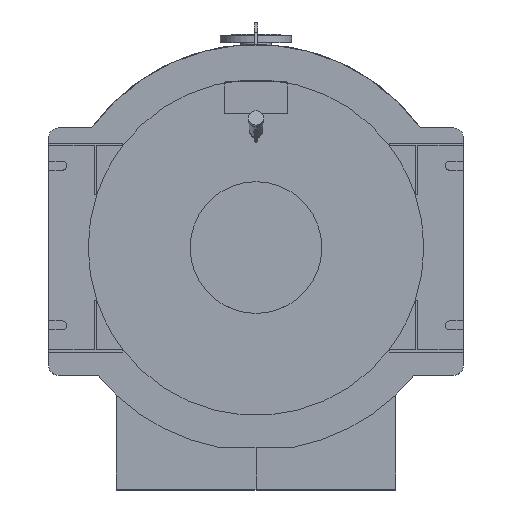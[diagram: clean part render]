
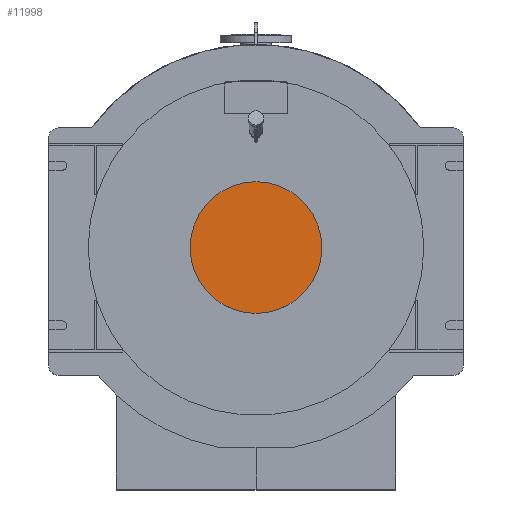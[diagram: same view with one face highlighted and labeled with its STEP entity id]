
A CAD part, top view. The second image highlights one B-rep face of the part: STEP entity #11998.
In plain terms, the highlighted planar face has unit normal (0, 0, 1).
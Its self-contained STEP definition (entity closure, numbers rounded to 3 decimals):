
#978=FACE_OUTER_BOUND('',#1654,.T.);
#1654=EDGE_LOOP('',(#10191));
#2198=CIRCLE('',#13204,165.);
#5304=VERTEX_POINT('',#20431);
#6955=EDGE_CURVE('',#5304,#5304,#2198,.T.);
#10191=ORIENTED_EDGE('',*,*,#6955,.F.);
#10738=PLANE('',#13203);
#11998=ADVANCED_FACE('',(#978),#10738,.T.);
#13203=AXIS2_PLACEMENT_3D('',#20430,#16584,#16585);
#13204=AXIS2_PLACEMENT_3D('',#20432,#16586,#16587);
#16584=DIRECTION('center_axis',(0.,0.,1.));
#16585=DIRECTION('ref_axis',(1.,0.,0.));
#16586=DIRECTION('center_axis',(0.,0.,-1.));
#16587=DIRECTION('ref_axis',(1.,0.,0.));
#20430=CARTESIAN_POINT('Origin',(0.,0.,1295.));
#20431=CARTESIAN_POINT('',(-165.,0.,1295.));
#20432=CARTESIAN_POINT('Origin',(0.,0.,1295.));
